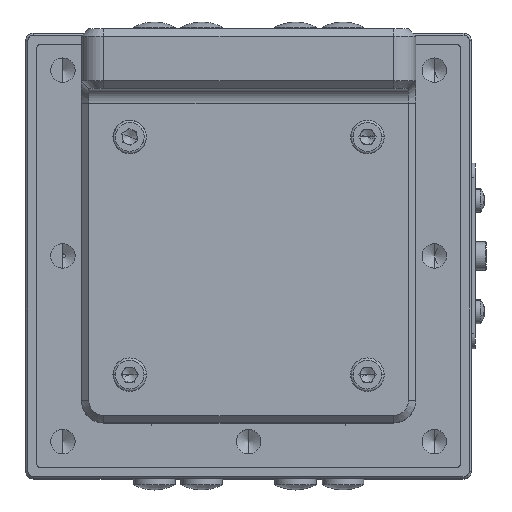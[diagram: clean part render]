
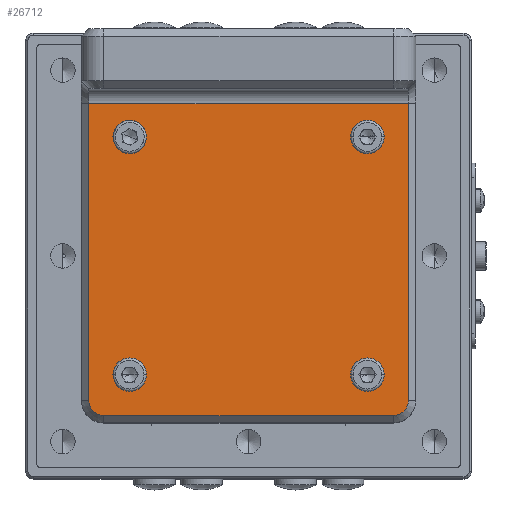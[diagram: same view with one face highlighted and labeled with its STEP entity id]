
A CAD part, top view. The second image highlights one B-rep face of the part: STEP entity #26712.
In plain terms, the highlighted planar face has unit normal (0, 0, 1).
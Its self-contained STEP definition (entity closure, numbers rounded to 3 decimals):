
#787 = EDGE_CURVE ( 'NONE', #25405, #41703, #22557, .T. ) ;
#921 = AXIS2_PLACEMENT_3D ( 'NONE', #4492, #26495, #26265 ) ;
#943 = VECTOR ( 'NONE', #18967, 1000. ) ;
#1194 = CARTESIAN_POINT ( 'NONE',  ( 21.5, -19.5, 41.6 ) ) ;
#1464 = AXIS2_PLACEMENT_3D ( 'NONE', #1719, #26973, #5216 ) ;
#1689 = CIRCLE ( 'NONE', #921, 2.25 ) ;
#1719 = CARTESIAN_POINT ( 'NONE',  ( 16., -16., 41.6 ) ) ;
#2035 = VERTEX_POINT ( 'NONE', #1194 ) ;
#2572 = EDGE_CURVE ( 'NONE', #3492, #10784, #23782, .T. ) ;
#2727 = CARTESIAN_POINT ( 'NONE',  ( -19.5, -21.5, 41.6 ) ) ;
#2868 = EDGE_LOOP ( 'NONE', ( #23905, #19771 ) ) ;
#2871 = CARTESIAN_POINT ( 'NONE',  ( 21.5, 20.5, 41.6 ) ) ;
#2989 = EDGE_CURVE ( 'NONE', #18988, #38179, #16165, .T. ) ;
#3225 = VERTEX_POINT ( 'NONE', #34778 ) ;
#3492 = VERTEX_POINT ( 'NONE', #13388 ) ;
#3888 = ORIENTED_EDGE ( 'NONE', *, *, #787, .F. ) ;
#4492 = CARTESIAN_POINT ( 'NONE',  ( -16., 16., 41.6 ) ) ;
#4727 = DIRECTION ( 'NONE',  ( 0., 0., 1. ) ) ;
#5171 = FACE_OUTER_BOUND ( 'NONE', #42035, .T. ) ;
#5216 = DIRECTION ( 'NONE',  ( 1., 0., 0. ) ) ;
#6471 = DIRECTION ( 'NONE',  ( 0., 0., 1. ) ) ;
#6844 = CARTESIAN_POINT ( 'NONE',  ( 19.5, -21.5, 41.6 ) ) ;
#7250 = CARTESIAN_POINT ( 'NONE',  ( -16., -16., 41.6 ) ) ;
#7771 = CARTESIAN_POINT ( 'NONE',  ( 18.25, 16., 41.6 ) ) ;
#8412 = CIRCLE ( 'NONE', #24105, 2.25 ) ;
#8745 = CARTESIAN_POINT ( 'NONE',  ( 0., 20.5, 41.6 ) ) ;
#9576 = DIRECTION ( 'NONE',  ( 1., 0., 0. ) ) ;
#10252 = VECTOR ( 'NONE', #19072, 1000. ) ;
#10784 = VERTEX_POINT ( 'NONE', #25256 ) ;
#11249 = EDGE_CURVE ( 'NONE', #41703, #25405, #41983, .T. ) ;
#11421 = DIRECTION ( 'NONE',  ( 0., 0., 1. ) ) ;
#11554 = ORIENTED_EDGE ( 'NONE', *, *, #12001, .T. ) ;
#12001 = EDGE_CURVE ( 'NONE', #2035, #34413, #32525, .T. ) ;
#12302 = DIRECTION ( 'NONE',  ( 0., 0., 1. ) ) ;
#12481 = VECTOR ( 'NONE', #40101, 1000. ) ;
#13006 = ORIENTED_EDGE ( 'NONE', *, *, #25049, .F. ) ;
#13388 = CARTESIAN_POINT ( 'NONE',  ( 13.75, -16., 41.6 ) ) ;
#13839 = DIRECTION ( 'NONE',  ( 1., 0., 0. ) ) ;
#14575 = EDGE_CURVE ( 'NONE', #17008, #3225, #32853, .T. ) ;
#14967 = ORIENTED_EDGE ( 'NONE', *, *, #32761, .T. ) ;
#15289 = DIRECTION ( 'NONE',  ( 0., 0., 1. ) ) ;
#15298 = FACE_BOUND ( 'NONE', #42828, .T. ) ;
#15744 = FACE_BOUND ( 'NONE', #28487, .T. ) ;
#16165 = LINE ( 'NONE', #41617, #21566 ) ;
#16280 = EDGE_CURVE ( 'NONE', #20011, #43593, #1689, .T. ) ;
#16431 = VERTEX_POINT ( 'NONE', #23900 ) ;
#17008 = VERTEX_POINT ( 'NONE', #38776 ) ;
#17763 = ORIENTED_EDGE ( 'NONE', *, *, #40454, .F. ) ;
#17870 = ORIENTED_EDGE ( 'NONE', *, *, #33126, .T. ) ;
#17942 = DIRECTION ( 'NONE',  ( 1., 0., 0. ) ) ;
#18967 = DIRECTION ( 'NONE',  ( 0., 1., 0. ) ) ;
#18988 = VERTEX_POINT ( 'NONE', #2727 ) ;
#19072 = DIRECTION ( 'NONE',  ( -1., 0., 0. ) ) ;
#19369 = ORIENTED_EDGE ( 'NONE', *, *, #11249, .F. ) ;
#19514 = CARTESIAN_POINT ( 'NONE',  ( -21.5, -19.5, 41.6 ) ) ;
#19771 = ORIENTED_EDGE ( 'NONE', *, *, #2572, .F. ) ;
#20011 = VERTEX_POINT ( 'NONE', #43068 ) ;
#21491 = ORIENTED_EDGE ( 'NONE', *, *, #2989, .T. ) ;
#21521 = CARTESIAN_POINT ( 'NONE',  ( 21.5, 20.5, 41.6 ) ) ;
#21566 = VECTOR ( 'NONE', #9576, 1000. ) ;
#21742 = AXIS2_PLACEMENT_3D ( 'NONE', #25661, #24722, #17942 ) ;
#21763 = DIRECTION ( 'NONE',  ( 0., 0., 1. ) ) ;
#22557 = CIRCLE ( 'NONE', #37483, 2.25 ) ;
#22577 = LINE ( 'NONE', #8745, #10252 ) ;
#23782 = CIRCLE ( 'NONE', #1464, 2.25 ) ;
#23900 = CARTESIAN_POINT ( 'NONE',  ( -18.25, -16., 41.6 ) ) ;
#23905 = ORIENTED_EDGE ( 'NONE', *, *, #31898, .F. ) ;
#24105 = AXIS2_PLACEMENT_3D ( 'NONE', #26239, #15289, #37196 ) ;
#24148 = CIRCLE ( 'NONE', #25658, 2. ) ;
#24366 = VERTEX_POINT ( 'NONE', #36258 ) ;
#24722 = DIRECTION ( 'NONE',  ( 0., 0., 1. ) ) ;
#25049 = EDGE_CURVE ( 'NONE', #16431, #24366, #28799, .T. ) ;
#25256 = CARTESIAN_POINT ( 'NONE',  ( 18.25, -16., 41.6 ) ) ;
#25362 = CARTESIAN_POINT ( 'NONE',  ( 13.75, 16., 41.6 ) ) ;
#25405 = VERTEX_POINT ( 'NONE', #7771 ) ;
#25658 = AXIS2_PLACEMENT_3D ( 'NONE', #34995, #6471, #42470 ) ;
#25661 = CARTESIAN_POINT ( 'NONE',  ( 16., -16., 41.6 ) ) ;
#25791 = FACE_BOUND ( 'NONE', #2868, .T. ) ;
#26239 = CARTESIAN_POINT ( 'NONE',  ( -16., -16., 41.6 ) ) ;
#26265 = DIRECTION ( 'NONE',  ( 1., 0., 0. ) ) ;
#26495 = DIRECTION ( 'NONE',  ( 0., 0., 1. ) ) ;
#26712 = ADVANCED_FACE ( 'NONE', ( #36990, #15298, #25791, #15744, #5171 ), #40954, .T. ) ;
#26973 = DIRECTION ( 'NONE',  ( 0., 0., 1. ) ) ;
#28122 = AXIS2_PLACEMENT_3D ( 'NONE', #40046, #4727, #33267 ) ;
#28129 = DIRECTION ( 'NONE',  ( 1., 0., 0. ) ) ;
#28487 = EDGE_LOOP ( 'NONE', ( #38917, #36354 ) ) ;
#28590 = CARTESIAN_POINT ( 'NONE',  ( 16., 16., 41.6 ) ) ;
#28799 = CIRCLE ( 'NONE', #40752, 2.25 ) ;
#29064 = AXIS2_PLACEMENT_3D ( 'NONE', #41501, #12302, #34260 ) ;
#29198 = EDGE_CURVE ( 'NONE', #43593, #20011, #35037, .T. ) ;
#29885 = EDGE_LOOP ( 'NONE', ( #3888, #19369 ) ) ;
#30285 = ORIENTED_EDGE ( 'NONE', *, *, #14575, .T. ) ;
#31658 = DIRECTION ( 'NONE',  ( 0., 0., 1. ) ) ;
#31898 = EDGE_CURVE ( 'NONE', #10784, #3492, #43381, .T. ) ;
#32525 = LINE ( 'NONE', #21521, #943 ) ;
#32761 = EDGE_CURVE ( 'NONE', #3225, #18988, #24148, .T. ) ;
#32853 = LINE ( 'NONE', #19514, #12481 ) ;
#33126 = EDGE_CURVE ( 'NONE', #34413, #17008, #22577, .T. ) ;
#33267 = DIRECTION ( 'NONE',  ( 1., 0., 0. ) ) ;
#33748 = CIRCLE ( 'NONE', #44925, 2. ) ;
#34260 = DIRECTION ( 'NONE',  ( 1., 0., 0. ) ) ;
#34413 = VERTEX_POINT ( 'NONE', #2871 ) ;
#34521 = AXIS2_PLACEMENT_3D ( 'NONE', #43443, #11421, #39936 ) ;
#34778 = CARTESIAN_POINT ( 'NONE',  ( -21.5, -19.5, 41.6 ) ) ;
#34995 = CARTESIAN_POINT ( 'NONE',  ( -19.5, -19.5, 41.6 ) ) ;
#35037 = CIRCLE ( 'NONE', #29064, 2.25 ) ;
#35449 = ORIENTED_EDGE ( 'NONE', *, *, #39800, .T. ) ;
#36258 = CARTESIAN_POINT ( 'NONE',  ( -13.75, -16., 41.6 ) ) ;
#36354 = ORIENTED_EDGE ( 'NONE', *, *, #16280, .F. ) ;
#36990 = FACE_BOUND ( 'NONE', #29885, .T. ) ;
#37196 = DIRECTION ( 'NONE',  ( 1., 0., 0. ) ) ;
#37483 = AXIS2_PLACEMENT_3D ( 'NONE', #28590, #31658, #28129 ) ;
#38179 = VERTEX_POINT ( 'NONE', #6844 ) ;
#38776 = CARTESIAN_POINT ( 'NONE',  ( -21.5, 20.5, 41.6 ) ) ;
#38917 = ORIENTED_EDGE ( 'NONE', *, *, #29198, .F. ) ;
#39067 = CARTESIAN_POINT ( 'NONE',  ( 19.5, -19.5, 41.6 ) ) ;
#39288 = DIRECTION ( 'NONE',  ( 0., 0., 1. ) ) ;
#39800 = EDGE_CURVE ( 'NONE', #38179, #2035, #33748, .T. ) ;
#39936 = DIRECTION ( 'NONE',  ( 1., 0., 0. ) ) ;
#40046 = CARTESIAN_POINT ( 'NONE',  ( 0., 4., 41.6 ) ) ;
#40101 = DIRECTION ( 'NONE',  ( 0., -1., 0. ) ) ;
#40454 = EDGE_CURVE ( 'NONE', #24366, #16431, #8412, .T. ) ;
#40752 = AXIS2_PLACEMENT_3D ( 'NONE', #7250, #21763, #43036 ) ;
#40954 = PLANE ( 'NONE',  #28122 ) ;
#41501 = CARTESIAN_POINT ( 'NONE',  ( -16., 16., 41.6 ) ) ;
#41617 = CARTESIAN_POINT ( 'NONE',  ( 19.5, -21.5, 41.6 ) ) ;
#41703 = VERTEX_POINT ( 'NONE', #25362 ) ;
#41983 = CIRCLE ( 'NONE', #34521, 2.25 ) ;
#42035 = EDGE_LOOP ( 'NONE', ( #35449, #11554, #17870, #30285, #14967, #21491 ) ) ;
#42470 = DIRECTION ( 'NONE',  ( 1., 0., 0. ) ) ;
#42828 = EDGE_LOOP ( 'NONE', ( #17763, #13006 ) ) ;
#43036 = DIRECTION ( 'NONE',  ( 1., 0., 0. ) ) ;
#43068 = CARTESIAN_POINT ( 'NONE',  ( -18.25, 16., 41.6 ) ) ;
#43381 = CIRCLE ( 'NONE', #21742, 2.25 ) ;
#43443 = CARTESIAN_POINT ( 'NONE',  ( 16., 16., 41.6 ) ) ;
#43593 = VERTEX_POINT ( 'NONE', #46058 ) ;
#44925 = AXIS2_PLACEMENT_3D ( 'NONE', #39067, #39288, #13839 ) ;
#46058 = CARTESIAN_POINT ( 'NONE',  ( -13.75, 16., 41.6 ) ) ;
